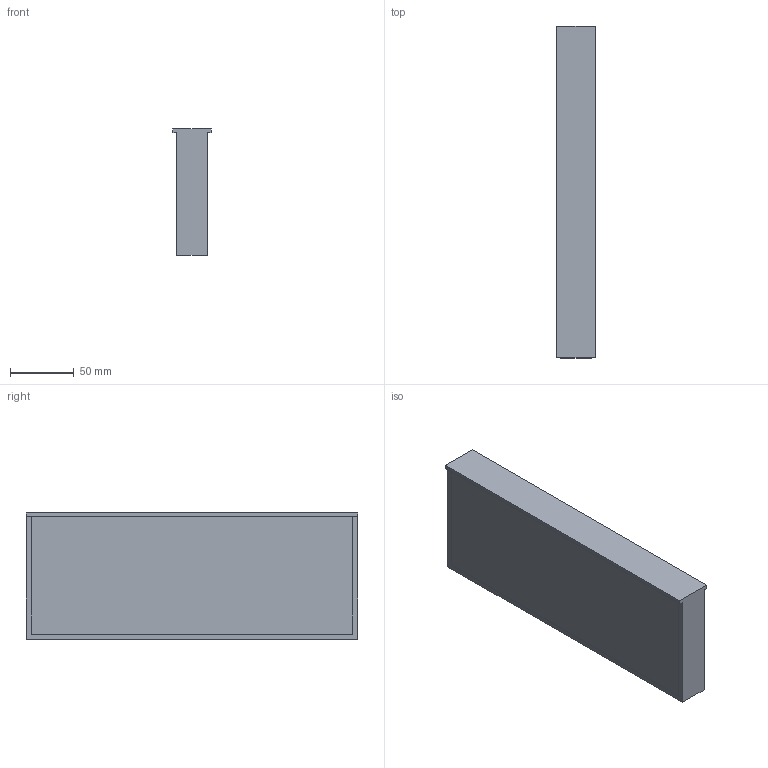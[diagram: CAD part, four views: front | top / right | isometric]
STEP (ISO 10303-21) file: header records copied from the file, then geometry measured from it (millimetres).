
FILE_DESCRIPTION (( 'STEP AP214' ), '1' );
FILE_NAME ('02-000 - MODULE CAL-OUT+DIV-OL (GABARITS).STEP', '2026-04-18T09:19:33', ( '' ), ( '' ), 'SwSTEP 2.0', 'SolidWorks 2021', '' );
FILE_SCHEMA (( 'AUTOMOTIVE_DESIGN' ));
Length unit declared in the file: millimetre
Products named in the file (4): 02-001 - VOLUME CONCEPTION CIRCUITS; 02-002 - VOLUMES INTERDITS; 02-000 - MODULE CAL-OUT+DIV-OL (GABARITS); 02-003 - VOLUME BOITIER (PRINCIPE)
Assembly tree (3 placements, depth 2):
  02-000 - MODULE CAL-OUT+DIV-OL (GABARITS)
    02-003 - VOLUME BOITIER (PRINCIPE)
    02-002 - VOLUMES INTERDITS
    02-001 - VOLUME CONCEPTION CIRCUITS
Bounding box: 30 x 260 x 99 mm (x, y, z)
Volume: 622440 mm3; surface area: 205004 mm2
Topology: 3 solids, 4 shells, 30 faces, 72 edges, 48 vertices
Faces by surface type: plane 30
Entity records: 1012 total; most frequent: CARTESIAN_POINT 156, DIRECTION 144, ORIENTED_EDGE 144, EDGE_CURVE 72, LINE 72, VECTOR 72, VERTEX_POINT 48, AXIS2_PLACEMENT_3D 36
